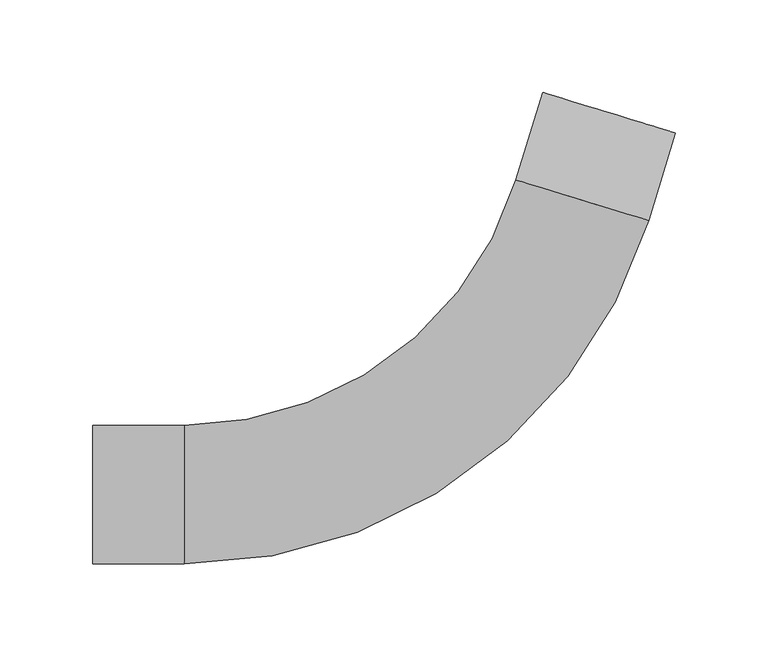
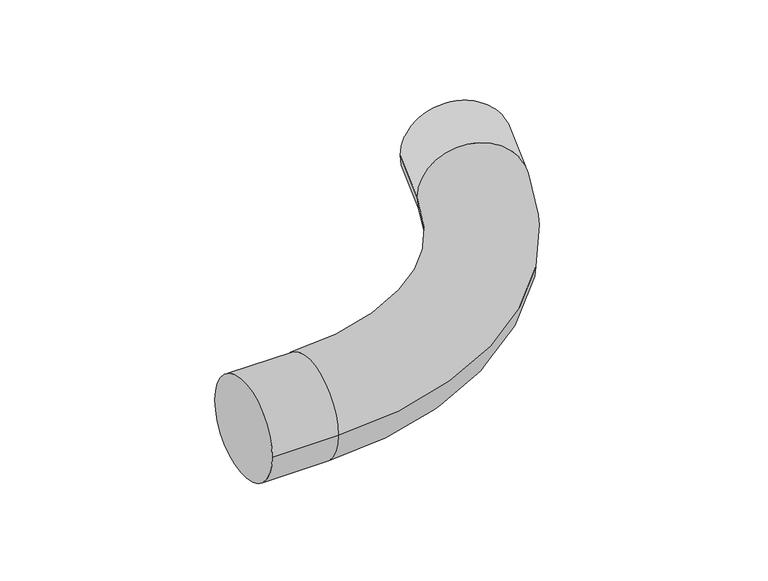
"""IFC4 building model written with IfcOpenShell, lengths in millimetres: cable carrier fitting geometry, Трубы гофрированные двустенные ПНД-ПВД : Трубы гофрированные двустенные ПНД-ПВД."""

import ifcopenshell
import ifcopenshell.guid

model = None  # the IFC model being written
_history = None  # IfcOwnerHistory: only IFC2X3 demands one
_inside = {}  # id of a spatial element -> (the spatial element, [elements in it])
_under = {}  # id of a project, library or spatial element -> (it, [spatial elements below it])
_declared = {}  # id of a project -> (the project, [libraries it declares])
_typed = {}  # id of a type object -> (the type object, [elements of that type])
_made_of = {}  # id of a material, layer set ... -> (it, [elements and type objects made of it])


def new_model(schema):
    """Start an empty IFC model of exactly this schema.

    Asked for "IFC4X3", IfcOpenShell would pick the latest addendum, in which some entities
    have other attributes; the version numbers below select the first issue.
    IFC2X3 requires an IfcOwnerHistory on every rooted entity: one is made here for all.
    """
    global model, _history
    if schema == "IFC4X3":
        model = ifcopenshell.file(schema_version=(4, 3, 0, 0))
    else:
        model = ifcopenshell.file(schema=schema)
    _inside.clear()
    _under.clear()
    _declared.clear()
    _typed.clear()
    _made_of.clear()
    _history = None
    if model.schema == "IFC2X3":
        org = make("IfcOrganization", Name="unknown")
        user = make(
            "IfcPersonAndOrganization",
            ThePerson=make("IfcPerson", FamilyName="unknown"),
            TheOrganization=org,
        )
        app = make(
            "IfcApplication",
            ApplicationDeveloper=org,
            Version="unknown",
            ApplicationFullName="unknown",
            ApplicationIdentifier="unknown",
        )
        _history = make(
            "IfcOwnerHistory",
            OwningUser=user,
            OwningApplication=app,
            ChangeAction="ADDED",
            CreationDate=0,
        )
    return model


def make(cls, **values):
    """One entity of the class cls with the attributes given. An attribute that is None is left unset."""
    return model.create_entity(
        cls, **{name: value for name, value in values.items() if value is not None}
    )


def rooted(cls, **values):
    """An entity with a GlobalId (a new one), such as an element, a storey or a relation."""
    return make(cls, GlobalId=ifcopenshell.guid.new(), OwnerHistory=_history, **values)


def si_unit(unit_type, name, prefix=None):
    """IfcSIUnit, for example si_unit("LENGTHUNIT", "METRE", prefix="MILLI")."""
    return make("IfcSIUnit", UnitType=unit_type, Prefix=prefix, Name=name)


def assignment(units):
    """IfcUnitAssignment: the units of a project."""
    return None if units is None else make("IfcUnitAssignment", Units=units)


def point(xyz):
    """IfcCartesianPoint."""
    return None if xyz is None else make("IfcCartesianPoint", Coordinates=xyz)


def direction(xyz):
    """IfcDirection."""
    return None if xyz is None else make("IfcDirection", DirectionRatios=xyz)


def frame(location, z_axis=None, x_axis=None):
    """IfcAxis2Placement3D, a coordinate frame: its origin and axes. An axis left out is left unset."""
    return make(
        "IfcAxis2Placement3D",
        Location=point(location),
        Axis=direction(z_axis),
        RefDirection=direction(x_axis),
    )


def origin():
    """The frame at (0, 0, 0) with its axes left unset."""
    return frame((0.0, 0.0, 0.0))


def place(relative_to, where):
    """IfcLocalPlacement: puts the frame where relative to a parent placement (None: the world)."""
    return make(
        "IfcLocalPlacement", PlacementRelTo=relative_to, RelativePlacement=where
    )


def context(
    kind, dimensions, precision=None, world=None, true_north=None, identifier=None
):
    """IfcGeometricRepresentationContext, for example the 3D "Model" context."""
    return make(
        "IfcGeometricRepresentationContext",
        ContextIdentifier=identifier,
        ContextType=kind,
        CoordinateSpaceDimension=dimensions,
        Precision=precision,
        WorldCoordinateSystem=world,
        TrueNorth=true_north,
    )


def project(units=None, contexts=None):
    """IfcProject with its units and contexts."""
    return rooted(
        "IfcProject",
        Name="project",
        RepresentationContexts=contexts,
        UnitsInContext=assignment(units),
    )


def spatial(cls, under=None, at=None, **own):
    """A site, building, storey or space (cls), placed at a placement, below another one or the project."""
    s = rooted(cls, ObjectPlacement=at, **own)
    if under is not None:
        _under.setdefault(under.id(), (under, []))[1].append(s)
    return s


def circle_curve(where, radius):
    """IfcCircle in the frame where."""
    return make("IfcCircle", Position=where, Radius=radius)


def ellipse_curve(where, semi_axis1, semi_axis2):
    """IfcEllipse in the frame where."""
    return make(
        "IfcEllipse", Position=where, SemiAxis1=semi_axis1, SemiAxis2=semi_axis2
    )


def trimmed(basis, trim1, trim2, sense, master):
    """IfcTrimmedCurve: the piece of a basis curve between two trims."""
    return make(
        "IfcTrimmedCurve",
        BasisCurve=basis,
        Trim1=trim1,
        Trim2=trim2,
        SenseAgreement=sense,
        MasterRepresentation=master,
    )


def shape(context_of_items, identifier, shape_type, items):
    """IfcShapeRepresentation: the items that make up one representation, for example the "Body"."""
    return make(
        "IfcShapeRepresentation",
        ContextOfItems=context_of_items,
        RepresentationIdentifier=identifier,
        RepresentationType=shape_type,
        Items=items,
    )


def source(mapping_origin, context_of_items, identifier, shape_type, items):
    """IfcRepresentationMap: a shape defined once, which mapped items show again and again."""
    return make(
        "IfcRepresentationMap",
        MappingOrigin=mapping_origin,
        MappedRepresentation=shape(context_of_items, identifier, shape_type, items),
    )


def transform(
    local_origin,
    x_axis=None,
    y_axis=None,
    z_axis=None,
    scale=None,
    scale2=None,
    scale3=None,
    uniform=True,
):
    """IfcCartesianTransformationOperator3D, or its non-uniform kind. x_axis, y_axis, z_axis: its Axis1, 2, 3."""
    if uniform:
        return make(
            "IfcCartesianTransformationOperator3D",
            Axis1=direction(x_axis),
            Axis2=direction(y_axis),
            LocalOrigin=point(local_origin),
            Scale=scale,
            Axis3=direction(z_axis),
        )
    return make(
        "IfcCartesianTransformationOperator3DnonUniform",
        Axis1=direction(x_axis),
        Axis2=direction(y_axis),
        LocalOrigin=point(local_origin),
        Scale=scale,
        Axis3=direction(z_axis),
        Scale2=scale2,
        Scale3=scale3,
    )


def mapped(mapping_source, mapping_target):
    """IfcMappedItem: shows the shape of a source again, moved by a transform."""
    return make(
        "IfcMappedItem", MappingSource=mapping_source, MappingTarget=mapping_target
    )


def made_of(thing, what):
    """Note that an element or type object is made of a material, layer set ...; save() writes the relation."""
    if what is not None:
        _made_of.setdefault(what.id(), (what, []))[1].append(thing)
    return thing


def element(
    cls,
    number,
    at=None,
    inside=None,
    cuts=None,
    type_object=None,
    material=None,
    context=None,
    identifier="Body",
    shape_type=None,
    held_by="IfcProductDefinitionShape",
    body=None,
    shapes=None,
    **own,
):
    """One element of the class cls, such as IfcWall. Its Tag is "e" and its number.

    at: its placement. inside: the storey or other place that contains it. cuts: it is an
    opening in that element (IfcRelVoidsElement). A single representation is given by context,
    identifier, shape_type and body (its items); several are given by shapes. held_by: the class
    of the entity that holds the representations. save() writes the other relations.
    """
    e = rooted(cls, Tag="e%d" % number, ObjectPlacement=at, **own)
    if body is not None:
        shapes = [shape(context, identifier, shape_type, body)]
    if shapes is not None:
        e.Representation = make(held_by, Representations=shapes)
    if inside is not None:
        _inside.setdefault(inside.id(), (inside, []))[1].append(e)
    if cuts is not None:
        rooted(
            "IfcRelVoidsElement", RelatingBuildingElement=cuts, RelatedOpeningElement=e
        )
    if type_object is not None:
        _typed.setdefault(type_object.id(), (type_object, []))[1].append(e)
    return made_of(e, material)


def aggregate(whole, parts):
    """IfcRelAggregates: a whole, such as a stair, and the parts it consists of."""
    return rooted("IfcRelAggregates", RelatingObject=whole, RelatedObjects=parts)


def save(model, path):
    """Write the relations noted so far, then the file.

    IfcRelAggregates (storeys below a building ...), IfcRelContainedInSpatialStructure (elements
    in a storey), IfcRelDefinesByType, IfcRelAssociatesMaterial and IfcRelDeclares: one each for
    every whole, place, type object, material and project.
    """
    for whole, parts in _under.values():
        aggregate(whole, parts)
    for where, things in _inside.values():
        rooted(
            "IfcRelContainedInSpatialStructure",
            RelatedElements=things,
            RelatingStructure=where,
        )
    for kind, things in _typed.values():
        rooted("IfcRelDefinesByType", RelatedObjects=things, RelatingType=kind)
    for what, things in _made_of.values():
        rooted("IfcRelAssociatesMaterial", RelatedObjects=things, RelatingMaterial=what)
    for by, libraries in _declared.values():
        rooted("IfcRelDeclares", RelatingContext=by, RelatedDefinitions=libraries)
    model.write(path)


def plane_surface(at):
    """IfcPlane: the flat surface through the origin of the frame at, square to its z axis."""
    return make("IfcPlane", Position=at)


def cylinder_surface(at, radius):
    """IfcCylindricalSurface: all points at the distance radius from the z axis of the frame at."""
    return make("IfcCylindricalSurface", Position=at, Radius=radius)


def revolved_surface(curve, axis_point, axis_direction):
    """IfcSurfaceOfRevolution: the curve turned about the line through axis_point along axis_direction."""
    return make(
        "IfcSurfaceOfRevolution",
        SweptCurve=make("IfcArbitraryOpenProfileDef", ProfileType="CURVE", Curve=curve),
        AxisPosition=make("IfcAxis1Placement", Location=point(axis_point), Axis=direction(axis_direction)),
    )


def advanced_brep(points, edges, surfaces, faces):
    """IfcAdvancedBrep: a solid bounded by faces that lie on surfaces and meet in shared edges.

    An edge is (start, end): straight between two places in points (the first is 0);
    or (start, end, curve); or (start, end, curve, False) where it runs against its curve.
    A face is (place in surfaces, loops), or (place, loops, False) where it looks against
    its surface's normal. A loop lists edges by number (the first is 1), with a minus sign
    where the edge is run from its end to its start. The first loop is the outer one.
    """
    corners = [point(p) for p in points]
    vertices = [make("IfcVertexPoint", VertexGeometry=c) for c in corners]
    made = []
    for start, end, *more in edges:
        made.append(
            make(
                "IfcEdgeCurve",
                EdgeStart=vertices[start],
                EdgeEnd=vertices[end],
                EdgeGeometry=more[0] if more else make("IfcPolyline", Points=[corners[start], corners[end]]),
                SameSense=more[1] if len(more) > 1 else True,
            )
        )
    hull = []
    for where, loops, *sense in faces:
        bounds = []
        for j, loop in enumerate(loops):
            ring = [make("IfcOrientedEdge", EdgeElement=made[abs(k) - 1], Orientation=k > 0) for k in loop]
            bounds.append(
                make(
                    "IfcFaceOuterBound" if j == 0 else "IfcFaceBound",
                    Bound=make("IfcEdgeLoop", EdgeList=ring),
                    Orientation=True,
                )
            )
        hull.append(make("IfcAdvancedFace", Bounds=bounds, FaceSurface=surfaces[where], SameSense=sense[0] if sense else True))
    return make("IfcAdvancedBrep", Outer=make("IfcClosedShell", CfsFaces=hull))


def cable_carrier_fitting_92d8cc5c(model_context):
    return source(origin(), model_context, "Body", "AdvancedBrep", [
        advanced_brep(
        [(-215.9912419, -37.5, 0.0), (-215.9912419, 37.5, 0.0), (-166.4912419, -37.5, 0.0), (-166.4912419, 37.5, 0.0), (12.8158999, 170.1803054, 0.0), (84.5387566, 148.2524275, 0.0), (99.0111559, 195.5895129, 0.0), (27.2882992, 217.5173908, 0.0)],
        [
            (0, 1, circle_curve(frame((-215.9912419, 0.0, 0.0), z_axis=(-1.0, 0.0, 0.0), x_axis=(0.0, 1.0, 0.0)), 37.5)),
            (1, 0, circle_curve(frame((-215.9912419, 0.0, 0.0), z_axis=(-1.0, 0.0, 0.0), x_axis=(0.0, 1.0, 0.0)), 37.5)),
            (0, 2),
            (2, 3, circle_curve(frame((-166.4912419, 0.0, 0.0), z_axis=(-1.0, 0.0, 0.0), x_axis=(0.0, 1.0, 0.0)), 37.5)),
            (3, 1),
            (3, 2, circle_curve(frame((-166.4912419, 0.0, 0.0), z_axis=(-1.0, 0.0, 0.0), x_axis=(0.0, 1.0, 0.0)), 37.5)),
            (4, 3, circle_curve(frame((-166.4912419, 225.0, 0.0), z_axis=(0.0, 0.0, -1.0), x_axis=(0.0, -1.0, 0.0)), 187.5)),
            (2, 5, circle_curve(frame((-166.4912419, 225.0, 0.0), z_axis=(0.0, 0.0, 1.0), x_axis=(0.0, -1.0, 0.0)), 262.5)),
            (5, 4, circle_curve(frame((48.6773282, 159.2163664, 0.0), z_axis=(-0.2923717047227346, -0.9563047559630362, 0.0), x_axis=(-0.9563047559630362, 0.2923717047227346, 0.0)), 37.5)),
            (4, 5, circle_curve(frame((48.6773282, 159.2163664, 0.0), z_axis=(-0.2923717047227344, -0.9563047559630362, 0.0), x_axis=(-0.9563047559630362, 0.2923717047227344, 0.0)), 37.5)),
            (6, 7, circle_curve(frame((63.1497276, 206.5534519, 0.0), z_axis=(0.29237170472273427, 0.9563047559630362, 0.0), x_axis=(-0.9563047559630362, 0.29237170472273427, 0.0)), 37.5)),
            (7, 6, circle_curve(frame((63.1497276, 206.5534519, 0.0), z_axis=(0.29237170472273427, 0.9563047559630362, 0.0), x_axis=(-0.9563047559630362, 0.29237170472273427, 0.0)), 37.5)),
            (5, 6),
            (7, 4),
        ],
        [
            plane_surface(frame((-215.9912419, 0.0, 0.0), z_axis=(-1.0, 0.0, 0.0), x_axis=(0.0, 0.0, 1.0))),
            cylinder_surface(frame((-215.9912419, 0.0, 0.0), z_axis=(-1.0, 0.0, 0.0), x_axis=(0.0, 1.0, 0.0)), 37.5),
            revolved_surface(trimmed(ellipse_curve(frame((-166.4912419, 0.0, 0.0), z_axis=(-1.0, 0.0, 0.0), x_axis=(0.0, 1.0, 0.0)), 37.5, 37.5), [point((-166.4912419, -37.5, 0.0))], [point((-166.4912419, 37.5, 0.0))], True, "CARTESIAN"), (-166.4912419, 225.0, 0.0), (0.0, 0.0, 1.0)),
            revolved_surface(trimmed(ellipse_curve(frame((-166.4912419, 0.0, 0.0), z_axis=(-1.0, 0.0, 0.0), x_axis=(0.0, 1.0, 0.0)), 37.5, 37.5), [point((-166.4912419, 37.5, 0.0))], [point((-166.4912419, -37.5, 0.0))], True, "CARTESIAN"), (-166.4912419, 225.0, 0.0), (0.0, 0.0, 1.0)),
            plane_surface(frame((63.1497276, 206.5534519, 0.0), z_axis=(0.2923717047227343, 0.9563047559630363, 0.0), x_axis=(0.0, 0.0, 1.0))),
            cylinder_surface(frame((48.6773282, 159.2163664, 0.0), z_axis=(-0.29237170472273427, -0.9563047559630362, 0.0), x_axis=(-0.9563047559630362, 0.29237170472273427, 0.0)), 37.5),
        ],
        [
            (0, [[1, 2]]),
            (1, [[-1, 3, 4, 5]]),
            (1, [[-2, -5, 6, -3]]),
            (2, [[7, -4, 8, 9]]),
            (3, [[-8, -6, -7, 10]]),
            (4, [[11, 12]]),
            (5, [[-9, 13, -12, 14]]),
            (5, [[-10, -14, -11, -13]]),
        ],
    ),
    ])


if __name__ == "__main__":
    model = new_model("IFC4")
    model_context = context("Model", 3, world=origin())
    ifc_project = project(units=[si_unit("LENGTHUNIT", "METRE", prefix="MILLI")], contexts=[model_context])
    site = spatial("IfcSite", under=ifc_project)
    building = spatial("IfcBuilding", under=site)
    placement = place(None, origin())
    cable_carrier_fitting_shape = cable_carrier_fitting_92d8cc5c(model_context)
    element("IfcCableCarrierFitting", 1, ObjectType="Трубы гофрированные двустенные ПНД-ПВД : Трубы гофрированные двустенные ПНД-ПВД", at=placement, inside=building, context=model_context, shape_type="MappedRepresentation", body=[
        mapped(cable_carrier_fitting_shape, transform((0.0, 0.0, 0.0), x_axis=(1.0, 0.0, 0.0), y_axis=(0.0, 1.0, 0.0), z_axis=(0.0, 0.0, 1.0))),
    ])
    save(model, "model.ifc")
